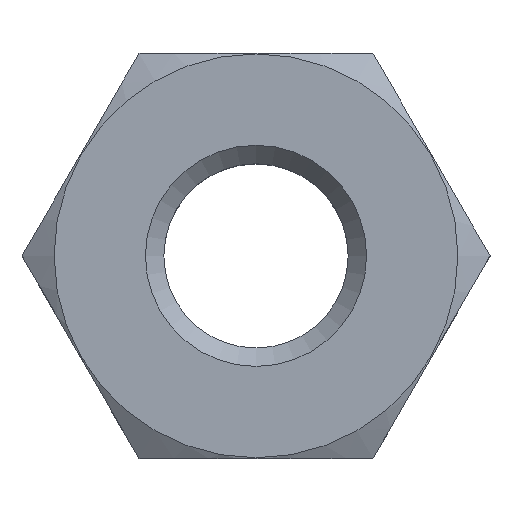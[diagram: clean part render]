
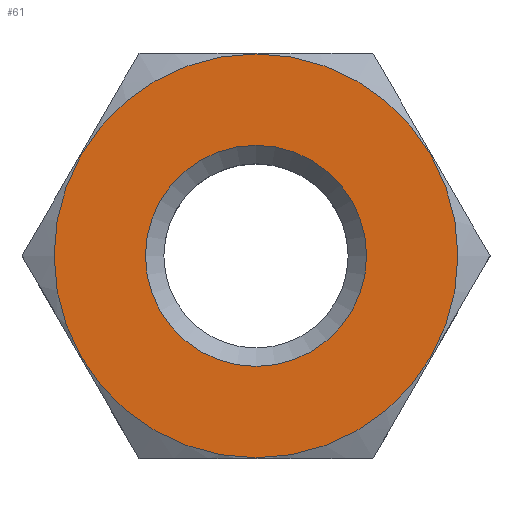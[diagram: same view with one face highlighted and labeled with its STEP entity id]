
A CAD part, top view. The second image highlights one B-rep face of the part: STEP entity #61.
In plain terms, the highlighted planar face has unit normal (0, 0, 1).
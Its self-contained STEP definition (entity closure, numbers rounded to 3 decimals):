
#61 = ADVANCED_FACE( '', ( #122, #123 ), #124, .T. );
#122 = FACE_BOUND( '', #175, .T. );
#123 = FACE_OUTER_BOUND( '', #176, .T. );
#124 = PLANE( '', #177 );
#175 = EDGE_LOOP( '', ( #274 ) );
#176 = EDGE_LOOP( '', ( #275 ) );
#177 = AXIS2_PLACEMENT_3D( '', #276, #277, #278 );
#274 = ORIENTED_EDGE( '', *, *, #309, .T. );
#275 = ORIENTED_EDGE( '', *, *, #292, .F. );
#276 = CARTESIAN_POINT( '', ( -1.588, -2.75, 2.4 ) );
#277 = DIRECTION( '', ( 0., 0., 1. ) );
#278 = DIRECTION( '', ( 1., 0., 0. ) );
#292 = EDGE_CURVE( '', #338, #338, #339, .T. );
#309 = EDGE_CURVE( '', #362, #362, #363, .F. );
#338 = VERTEX_POINT( '', #448 );
#339 = CIRCLE( '', #449, 2.74 );
#362 = VERTEX_POINT( '', #515 );
#363 = CIRCLE( '', #516, 1.5 );
#448 = CARTESIAN_POINT( '', ( -2.74, 0., 2.4 ) );
#449 = AXIS2_PLACEMENT_3D( '', #529, #530, #531 );
#515 = CARTESIAN_POINT( '', ( 1.5, 0., 2.4 ) );
#516 = AXIS2_PLACEMENT_3D( '', #542, #543, #544 );
#529 = CARTESIAN_POINT( '', ( 0., 0., 2.4 ) );
#530 = DIRECTION( '', ( 0., 0., -1. ) );
#531 = DIRECTION( '', ( -1., 0., 0. ) );
#542 = CARTESIAN_POINT( '', ( 0., 0., 2.4 ) );
#543 = DIRECTION( '', ( 0., 0., 1. ) );
#544 = DIRECTION( '', ( 1., 0., 0. ) );
